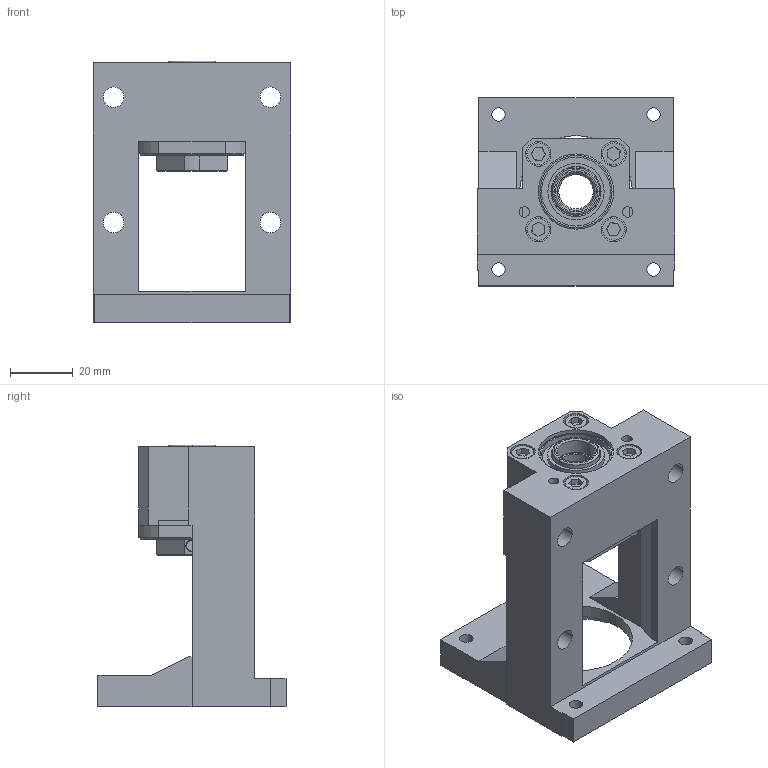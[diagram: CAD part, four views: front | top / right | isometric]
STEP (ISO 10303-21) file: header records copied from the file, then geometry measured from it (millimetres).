
FILE_DESCRIPTION (( 'STEP AP203' ), '1' );
FILE_NAME ('MBCF12-D.STEP', '2018-11-26T08:49:04', ( '' ), ( '' ), 'SwSTEP 2.0', 'SolidWorks 2018', '' );
FILE_SCHEMA (( 'CONFIG_CONTROL_DESIGN' ));
Length unit declared in the file: millimetre
Products named in the file (1): MBCF12-D
Bounding box: 63 x 60 x 83.5 mm (x, y, z)
Surface area: 31498.5 mm2 (no closed solid volume)
Topology: 0 solids, 14 shells, 251 faces, 640 edges, 413 vertices
Faces by surface type: plane 103, cylinder 95, cone 39, torus 10, bspline 4
Entity records: 8138 total; most frequent: CARTESIAN_POINT 1847, DIRECTION 1355, ORIENTED_EDGE 1183, EDGE_CURVE 640, AXIS2_PLACEMENT_3D 509, VERTEX_POINT 413, VECTOR 337, LINE 337
